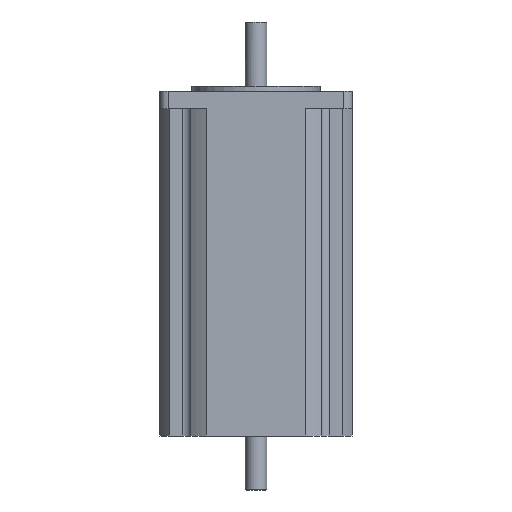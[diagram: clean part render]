
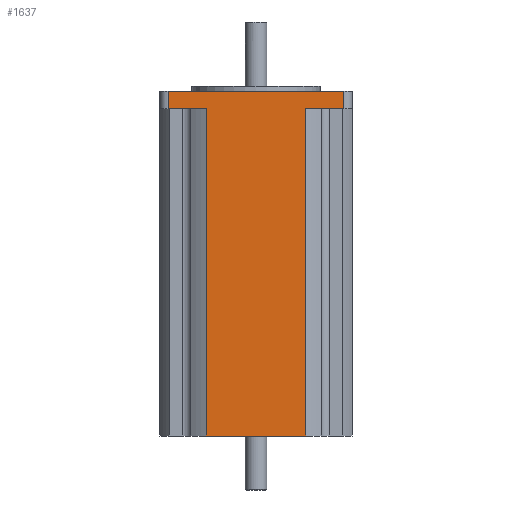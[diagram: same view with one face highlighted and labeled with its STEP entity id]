
A CAD part, front view. The second image highlights one B-rep face of the part: STEP entity #1637.
In plain terms, the highlighted planar face has unit normal (0, -1, 0).
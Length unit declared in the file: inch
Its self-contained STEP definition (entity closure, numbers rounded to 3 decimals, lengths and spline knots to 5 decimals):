
#562=CARTESIAN_POINT('',(0.57845,-1.125,0.0));
#563=VERTEX_POINT('',#562);
#564=CARTESIAN_POINT('',(0.57845,-1.125,3.82));
#565=VERTEX_POINT('',#564);
#566=CARTESIAN_POINT('',(0.57845,-1.125,0.0));
#567=DIRECTION('',(0.0,0.0,1.0));
#568=VECTOR('',#567,3.82);
#569=LINE('',#566,#568);
#570=EDGE_CURVE('',#563,#565,#569,.T.);
#730=CARTESIAN_POINT('',(-0.57845,-1.125,3.82));
#731=VERTEX_POINT('',#730);
#732=CARTESIAN_POINT('',(-0.57845,-1.125,0.0));
#733=VERTEX_POINT('',#732);
#734=CARTESIAN_POINT('',(-0.57845,-1.125,3.82));
#735=DIRECTION('',(0.0,0.0,-1.0));
#736=VECTOR('',#735,3.82);
#737=LINE('',#734,#736);
#738=EDGE_CURVE('',#731,#733,#737,.T.);
#803=CARTESIAN_POINT('',(-1.025,-1.125,3.82));
#804=VERTEX_POINT('',#803);
#805=CARTESIAN_POINT('',(-1.025,-1.125,3.82));
#806=DIRECTION('',(1.0,0.0,0.0));
#807=VECTOR('',#806,0.44655);
#808=LINE('',#805,#807);
#809=EDGE_CURVE('',#804,#731,#808,.T.);
#1082=CARTESIAN_POINT('',(-0.57845,-1.125,0.0));
#1083=DIRECTION('',(1.0,0.0,0.0));
#1084=VECTOR('',#1083,1.15689);
#1085=LINE('',#1082,#1084);
#1086=EDGE_CURVE('',#733,#563,#1085,.T.);
#1330=CARTESIAN_POINT('',(1.025,-1.125,3.82));
#1331=VERTEX_POINT('',#1330);
#1339=CARTESIAN_POINT('',(0.57845,-1.125,3.82));
#1340=DIRECTION('',(1.0,0.0,0.0));
#1341=VECTOR('',#1340,0.44655);
#1342=LINE('',#1339,#1341);
#1343=EDGE_CURVE('',#565,#1331,#1342,.T.);
#1592=CARTESIAN_POINT('',(1.025,-1.125,4.02));
#1593=VERTEX_POINT('',#1592);
#1601=CARTESIAN_POINT('',(1.025,-1.125,3.82));
#1602=DIRECTION('',(0.0,0.0,1.0));
#1603=VECTOR('',#1602,0.2);
#1604=LINE('',#1601,#1603);
#1605=EDGE_CURVE('',#1331,#1593,#1604,.T.);
#1610=CARTESIAN_POINT('',(1.025,-1.125,0.0));
#1611=DIRECTION('',(0.0,-1.0,0.0));
#1612=DIRECTION('',(0.0,0.0,-1.0));
#1613=AXIS2_PLACEMENT_3D('',#1610,#1611,#1612);
#1614=PLANE('',#1613);
#1615=ORIENTED_EDGE('',*,*,#738,.T.);
#1616=ORIENTED_EDGE('',*,*,#1086,.T.);
#1617=ORIENTED_EDGE('',*,*,#570,.T.);
#1618=ORIENTED_EDGE('',*,*,#1343,.T.);
#1619=ORIENTED_EDGE('',*,*,#1605,.T.);
#1620=CARTESIAN_POINT('',(-1.025,-1.125,4.02));
#1621=VERTEX_POINT('',#1620);
#1622=CARTESIAN_POINT('',(1.025,-1.125,4.02));
#1623=DIRECTION('',(-1.0,0.0,0.0));
#1624=VECTOR('',#1623,2.05);
#1625=LINE('',#1622,#1624);
#1626=EDGE_CURVE('',#1593,#1621,#1625,.T.);
#1627=ORIENTED_EDGE('',*,*,#1626,.T.);
#1628=CARTESIAN_POINT('',(-1.025,-1.125,3.82));
#1629=DIRECTION('',(0.0,0.0,1.0));
#1630=VECTOR('',#1629,0.2);
#1631=LINE('',#1628,#1630);
#1632=EDGE_CURVE('',#804,#1621,#1631,.T.);
#1633=ORIENTED_EDGE('',*,*,#1632,.F.);
#1634=ORIENTED_EDGE('',*,*,#809,.T.);
#1635=EDGE_LOOP('',(#1615,#1616,#1617,#1618,#1619,#1627,#1633,#1634));
#1636=FACE_OUTER_BOUND('',#1635,.T.);
#1637=ADVANCED_FACE('',(#1636),#1614,.T.);
